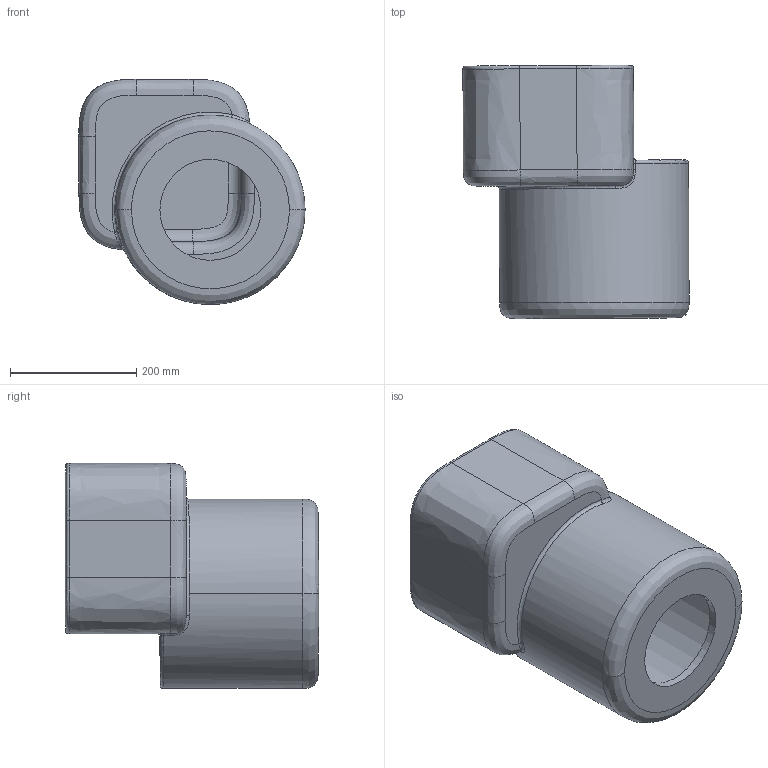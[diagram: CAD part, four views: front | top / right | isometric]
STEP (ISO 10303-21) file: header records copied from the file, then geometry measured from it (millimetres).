
FILE_DESCRIPTION (( 'STEP AP203' ), '1' );
FILE_NAME ('20230201_OFFSET_Square_on_circle_export.STEP', '2023-02-01T10:21:22', ( '' ), ( '' ), 'SwSTEP 2.0', 'SolidWorks 2018', '' );
FILE_SCHEMA (( 'CONFIG_CONTROL_DESIGN' ));
Length unit declared in the file: millimetre
Products named in the file (1): 20230201_OFFSET_Square_on_circle_export
Bounding box: 358.13 x 400.87 x 356.35 mm (x, y, z)
Volume: 6845696.7 mm3; surface area: 1007518.1 mm2
Topology: 1 solids, 1 shells, 91 faces, 207 edges, 120 vertices
Faces by surface type: bspline 52, cylinder 17, plane 16, torus 6
Entity records: 10707 total; most frequent: CARTESIAN_POINT 8993, ORIENTED_EDGE 414, DIRECTION 211, EDGE_CURVE 207, B_SPLINE_CURVE_WITH_KNOTS 125, VERTEX_POINT 120, EDGE_LOOP 93, FACE_OUTER_BOUND 91
